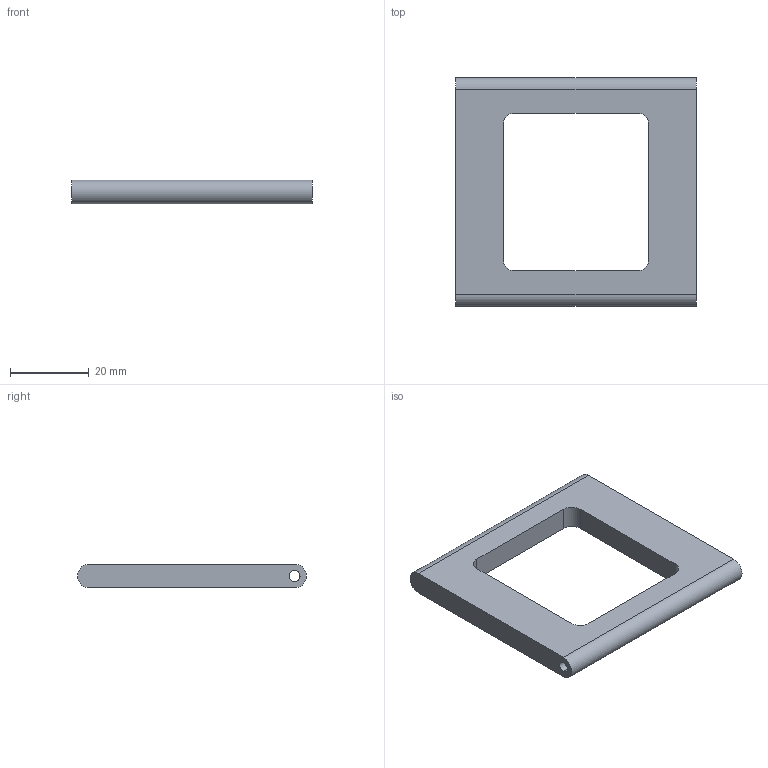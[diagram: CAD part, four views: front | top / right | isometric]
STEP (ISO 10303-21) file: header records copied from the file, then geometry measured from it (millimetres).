
FILE_DESCRIPTION (( 'STEP AP214' ), '1' );
FILE_NAME ('monitor_leg.STEP', '2015-02-27T02:29:48', ( '' ), ( '' ), '', '', '' );
FILE_SCHEMA (( '' ));
Length unit declared in the file: millimetre
Products named in the file (1): monitor_leg
Bounding box: 61 x 58 x 6 mm (x, y, z)
Volume: 11560.8 mm3; surface area: 6638 mm2
Topology: 1 solids, 1 shells, 16 faces, 42 edges, 28 vertices
Faces by surface type: cylinder 8, plane 8
Entity records: 533 total; most frequent: DIRECTION 92, CARTESIAN_POINT 87, ORIENTED_EDGE 84, EDGE_CURVE 42, AXIS2_PLACEMENT_3D 33, VERTEX_POINT 28, LINE 26, VECTOR 26
